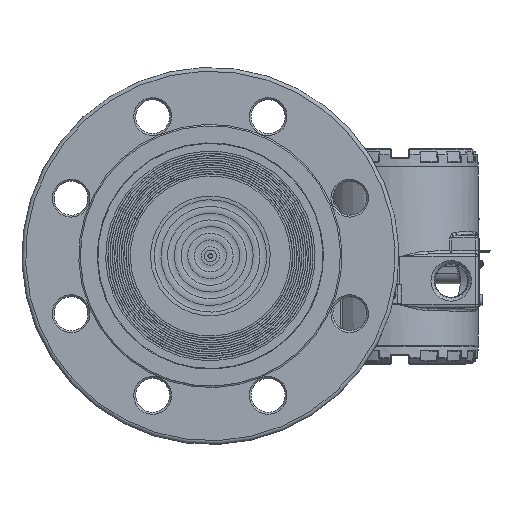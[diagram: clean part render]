
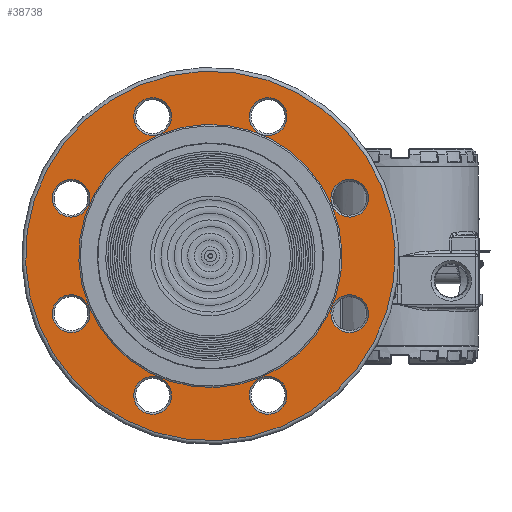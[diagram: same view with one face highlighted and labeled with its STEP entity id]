
A CAD part, top view. The second image highlights one B-rep face of the part: STEP entity #38738.
In plain terms, the highlighted planar face has unit normal (0, 0, 1) as drawn and (-1, 0, 0) by its records, which use the part's own axes.
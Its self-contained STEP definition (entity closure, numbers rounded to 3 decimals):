
#754=FACE_BOUND('',#6586,.T.);
#755=FACE_BOUND('',#6587,.T.);
#756=FACE_BOUND('',#6588,.T.);
#757=FACE_BOUND('',#6589,.T.);
#758=FACE_BOUND('',#6590,.T.);
#759=FACE_BOUND('',#6591,.T.);
#760=FACE_BOUND('',#6592,.T.);
#761=FACE_BOUND('',#6593,.T.);
#762=FACE_BOUND('',#6594,.T.);
#2734=PLANE('',#43035);
#3942=FACE_OUTER_BOUND('',#6585,.T.);
#6585=EDGE_LOOP('',(#29614,#29615));
#6586=EDGE_LOOP('',(#29616));
#6587=EDGE_LOOP('',(#29617));
#6588=EDGE_LOOP('',(#29618));
#6589=EDGE_LOOP('',(#29619));
#6590=EDGE_LOOP('',(#29620,#29621));
#6591=EDGE_LOOP('',(#29622));
#6592=EDGE_LOOP('',(#29623));
#6593=EDGE_LOOP('',(#29624));
#6594=EDGE_LOOP('',(#29625));
#12419=CIRCLE('',#43034,10.);
#12420=CIRCLE('',#43036,98.);
#12421=CIRCLE('',#43037,98.);
#12422=CIRCLE('',#43038,10.);
#12423=CIRCLE('',#43039,10.);
#12424=CIRCLE('',#43040,10.);
#12425=CIRCLE('',#43041,10.);
#12426=CIRCLE('',#43042,69.8);
#12427=CIRCLE('',#43043,69.8);
#12428=CIRCLE('',#43044,10.);
#12429=CIRCLE('',#43045,10.);
#12430=CIRCLE('',#43046,10.);
#16909=VERTEX_POINT('',#69061);
#16910=VERTEX_POINT('',#69065);
#16911=VERTEX_POINT('',#69066);
#16912=VERTEX_POINT('',#69069);
#16913=VERTEX_POINT('',#69071);
#16914=VERTEX_POINT('',#69073);
#16915=VERTEX_POINT('',#69075);
#16916=VERTEX_POINT('',#69077);
#16917=VERTEX_POINT('',#69078);
#16918=VERTEX_POINT('',#69081);
#16919=VERTEX_POINT('',#69083);
#16920=VERTEX_POINT('',#69085);
#21385=EDGE_CURVE('',#16909,#16909,#12419,.T.);
#21387=EDGE_CURVE('',#16910,#16911,#12420,.T.);
#21388=EDGE_CURVE('',#16911,#16910,#12421,.T.);
#21389=EDGE_CURVE('',#16912,#16912,#12422,.T.);
#21390=EDGE_CURVE('',#16913,#16913,#12423,.T.);
#21391=EDGE_CURVE('',#16914,#16914,#12424,.T.);
#21392=EDGE_CURVE('',#16915,#16915,#12425,.T.);
#21393=EDGE_CURVE('',#16916,#16917,#12426,.T.);
#21394=EDGE_CURVE('',#16917,#16916,#12427,.T.);
#21395=EDGE_CURVE('',#16918,#16918,#12428,.T.);
#21396=EDGE_CURVE('',#16919,#16919,#12429,.T.);
#21397=EDGE_CURVE('',#16920,#16920,#12430,.T.);
#29614=ORIENTED_EDGE('',*,*,#21387,.F.);
#29615=ORIENTED_EDGE('',*,*,#21388,.F.);
#29616=ORIENTED_EDGE('',*,*,#21389,.F.);
#29617=ORIENTED_EDGE('',*,*,#21390,.F.);
#29618=ORIENTED_EDGE('',*,*,#21391,.F.);
#29619=ORIENTED_EDGE('',*,*,#21392,.F.);
#29620=ORIENTED_EDGE('',*,*,#21393,.T.);
#29621=ORIENTED_EDGE('',*,*,#21394,.T.);
#29622=ORIENTED_EDGE('',*,*,#21395,.F.);
#29623=ORIENTED_EDGE('',*,*,#21396,.F.);
#29624=ORIENTED_EDGE('',*,*,#21397,.F.);
#29625=ORIENTED_EDGE('',*,*,#21385,.F.);
#38738=ADVANCED_FACE('',(#3942,#754,#755,#756,#757,#758,#759,#760,#761,
#762),#2734,.T.);
#43034=AXIS2_PLACEMENT_3D('',#69062,#50955,#50956);
#43035=AXIS2_PLACEMENT_3D('',#69064,#50958,#50959);
#43036=AXIS2_PLACEMENT_3D('',#69067,#50960,#50961);
#43037=AXIS2_PLACEMENT_3D('',#69068,#50962,#50963);
#43038=AXIS2_PLACEMENT_3D('',#69070,#50964,#50965);
#43039=AXIS2_PLACEMENT_3D('',#69072,#50966,#50967);
#43040=AXIS2_PLACEMENT_3D('',#69074,#50968,#50969);
#43041=AXIS2_PLACEMENT_3D('',#69076,#50970,#50971);
#43042=AXIS2_PLACEMENT_3D('',#69079,#50972,#50973);
#43043=AXIS2_PLACEMENT_3D('',#69080,#50974,#50975);
#43044=AXIS2_PLACEMENT_3D('',#69082,#50976,#50977);
#43045=AXIS2_PLACEMENT_3D('',#69084,#50978,#50979);
#43046=AXIS2_PLACEMENT_3D('',#69086,#50980,#50981);
#50955=DIRECTION('center_axis',(-1.,0.,0.));
#50956=DIRECTION('ref_axis',(0.,-0.707,-0.707));
#50958=DIRECTION('center_axis',(-1.,0.,0.));
#50959=DIRECTION('ref_axis',(0.,0.,1.));
#50960=DIRECTION('center_axis',(1.,0.,0.));
#50961=DIRECTION('ref_axis',(0.,1.,0.));
#50962=DIRECTION('center_axis',(1.,0.,0.));
#50963=DIRECTION('ref_axis',(0.,1.,0.));
#50964=DIRECTION('center_axis',(-1.,0.,0.));
#50965=DIRECTION('ref_axis',(0.,-1.,0.));
#50966=DIRECTION('center_axis',(-1.,0.,0.));
#50967=DIRECTION('ref_axis',(0.,0.,1.));
#50968=DIRECTION('center_axis',(-1.,0.,0.));
#50969=DIRECTION('ref_axis',(0.,1.,0.));
#50970=DIRECTION('center_axis',(-1.,0.,0.));
#50971=DIRECTION('ref_axis',(0.,0.,-1.));
#50972=DIRECTION('center_axis',(1.,0.,0.));
#50973=DIRECTION('ref_axis',(0.,1.,0.));
#50974=DIRECTION('center_axis',(1.,0.,0.));
#50975=DIRECTION('ref_axis',(0.,1.,0.));
#50976=DIRECTION('center_axis',(-1.,0.,0.));
#50977=DIRECTION('ref_axis',(0.,0.707,-0.707));
#50978=DIRECTION('center_axis',(-1.,0.,0.));
#50979=DIRECTION('ref_axis',(0.,0.707,0.707));
#50980=DIRECTION('center_axis',(-1.,0.,0.));
#50981=DIRECTION('ref_axis',(0.,-0.707,0.707));
#69061=CARTESIAN_POINT('',(2.,63.64,63.64));
#69062=CARTESIAN_POINT('Origin',(2.,56.569,56.569));
#69064=CARTESIAN_POINT('Origin',(2.,83.9,0.));
#69065=CARTESIAN_POINT('',(2.,98.,0.));
#69066=CARTESIAN_POINT('',(2.,0.,98.));
#69067=CARTESIAN_POINT('Origin',(2.,0.,0.));
#69068=CARTESIAN_POINT('Origin',(2.,0.,0.));
#69069=CARTESIAN_POINT('',(2.,90.,0.));
#69070=CARTESIAN_POINT('Origin',(2.,80.,0.));
#69071=CARTESIAN_POINT('',(2.,0.,-90.));
#69072=CARTESIAN_POINT('Origin',(2.,0.,-80.));
#69073=CARTESIAN_POINT('',(2.,-90.,0.));
#69074=CARTESIAN_POINT('Origin',(2.,-80.,0.));
#69075=CARTESIAN_POINT('',(2.,0.,90.));
#69076=CARTESIAN_POINT('Origin',(2.,0.,80.));
#69077=CARTESIAN_POINT('',(2.,69.8,0.));
#69078=CARTESIAN_POINT('',(2.,0.,69.8));
#69079=CARTESIAN_POINT('Origin',(2.,0.,0.));
#69080=CARTESIAN_POINT('Origin',(2.,0.,0.));
#69081=CARTESIAN_POINT('',(2.,-63.64,63.64));
#69082=CARTESIAN_POINT('Origin',(2.,-56.569,56.569));
#69083=CARTESIAN_POINT('',(2.,-63.64,-63.64));
#69084=CARTESIAN_POINT('Origin',(2.,-56.569,-56.569));
#69085=CARTESIAN_POINT('',(2.,63.64,-63.64));
#69086=CARTESIAN_POINT('Origin',(2.,56.569,-56.569));
